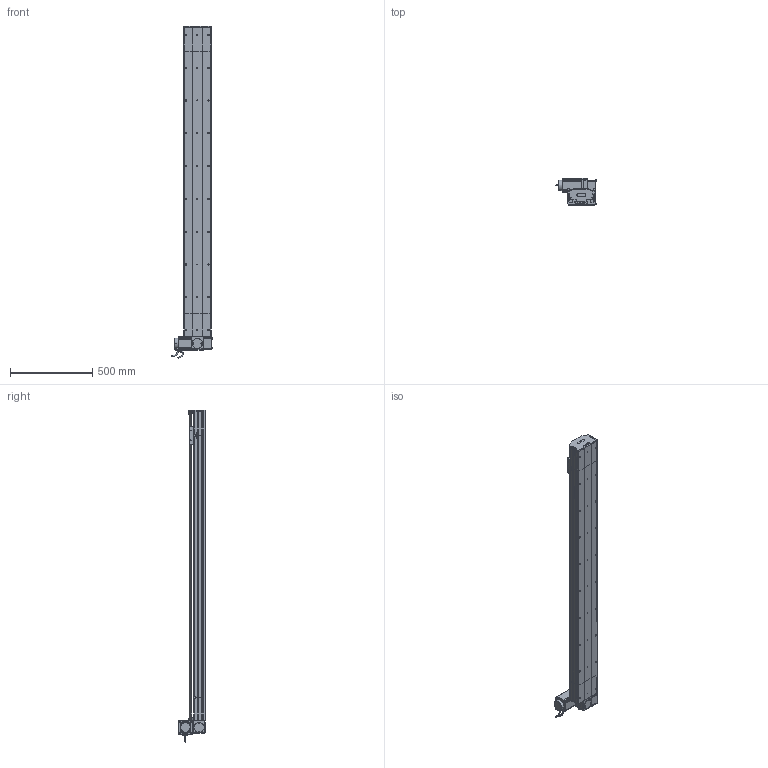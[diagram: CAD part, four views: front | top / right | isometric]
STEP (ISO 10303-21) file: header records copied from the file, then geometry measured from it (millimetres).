
FILE_DESCRIPTION (( 'STEP AP214' ), '1' );
FILE_NAME ('D17 TBN LT S1600.STEP', '2010-06-30T11:00:35', ( 'Christophe Gaillard' ), ( 'SGA' ), 'SwSTEP 2.0', 'SolidWorks 2010', '' );
FILE_SCHEMA (( 'AUTOMOTIVE_DESIGN' ));
Length unit declared in the file: millimetre
Products named in the file (40): Couroie tail D17B_Default; couvercle D17B_Default; vis M5 L8 90°_Default; vis M5 L25_Default; Renvoi LT_Default; plaque de  bout tail D17B_Default; poulie tail_Default; plaque de  bout head D17B LT_Default; vis M5 L16_Default; Arbre+rail head D17B; cache D17_Default; guide D17; D17 TBN LT S1600; Couroie+ rail D17 Course 1600 ; course 1600 D17B_Default; Vis M5 L16-2_Default; Rail D17B; couvercle D17B course L1600_Default; Head LT D17B_Default; corpl head D17 _Default; couvercle D17B head_Default; corp D17B 1600_Default; corpl tail D17B_Default; Tail D17B_Default; tete d''axe poulie D17B; Chariot D17 TBN; Conecteur_Default; avant 90BLDC125A-640; corps 90BLDC125A-640; codeur 90BLDC125-640; Conecteur2_Default; vis M5 L70_Default; Moteur motionking 90BLDC125A-640; chariot D17 TBN; vis M5 L5_Default; poulie head_Default; cache arbre D17_Default; couroie head D17_Default; vis M5 L12_Default; Plaque racord D17_Default
Assembly tree (66 placements, depth 4):
  D17 TBN LT S1600
    chariot D17 TBN
      guide D17  x2
      Chariot D17 TBN
    Tail D17B_Default
      couvercle D17B_Default
      tete d''axe poulie D17B
      vis M5 L12_Default  x4
      Rail D17B
      Couroie tail D17B_Default
      plaque de  bout tail D17B_Default
      vis M5 L8 90°_Default  x2
      poulie tail_Default
      vis M5 L25_Default  x2
      corpl tail D17B_Default
    Head LT D17B_Default
      vis M5 L70_Default  x4
      vis M5 L12_Default  x8
      vis M5 L5_Default  x4
      cache D17_Default  x2
      cache arbre D17_Default
      vis M5 L16_Default  x2
      vis M5 L25_Default  x2
      plaque de  bout head D17B LT_Default
      Renvoi LT_Default
      couvercle D17B head_Default
      Vis M5 L16-2_Default  x4
      Plaque racord D17_Default
      couroie head D17_Default
      Arbre+rail head D17B
      poulie head_Default
      Moteur motionking 90BLDC125A-640
        corps 90BLDC125A-640
        avant 90BLDC125A-640
        Conecteur_Default
        codeur 90BLDC125-640
        Conecteur2_Default
      corpl head D17 _Default
    course 1600 D17B_Default
      couvercle D17B course L1600_Default
      corp D17B 1600_Default
      Couroie+ rail D17 Course 1600 
Bounding box: 245.2 x 166.15 x 2023.95 mm (x, y, z)
Volume: 12107682.1 mm3; surface area: 3460938.4 mm2
Topology: 89 solids, 89 shells, 2567 faces, 6517 edges, 4202 vertices
Faces by surface type: plane 1533, cylinder 737, bspline 136, cone 80, torus 77, sphere 4
Entity records: 82883 total; most frequent: CARTESIAN_POINT 24787, ORIENTED_EDGE 10206, DIRECTION 9652, EDGE_CURVE 5103, VECTOR 3410, LINE 3410, VERTEX_POINT 3346, AXIS2_PLACEMENT_3D 3121
